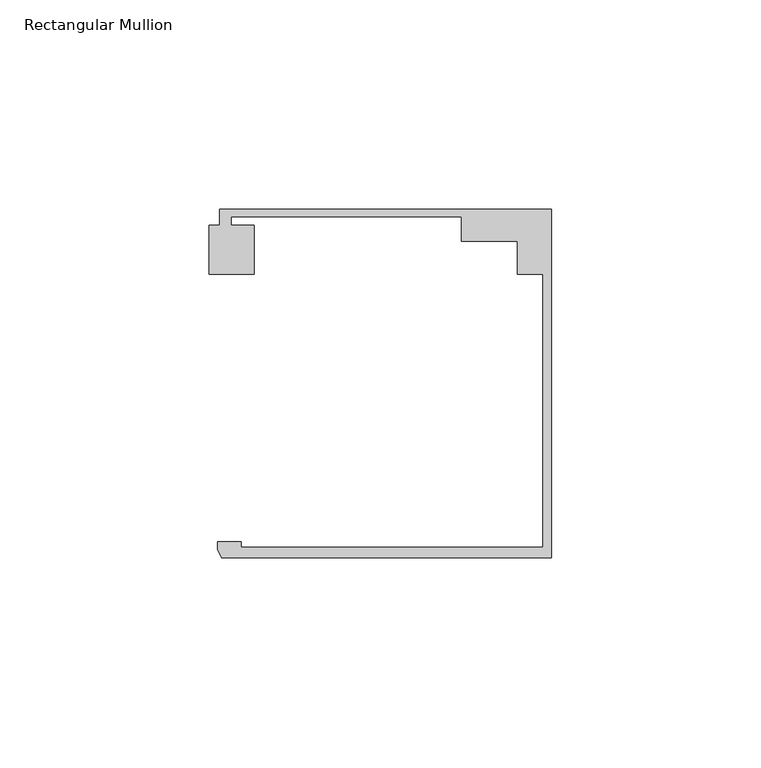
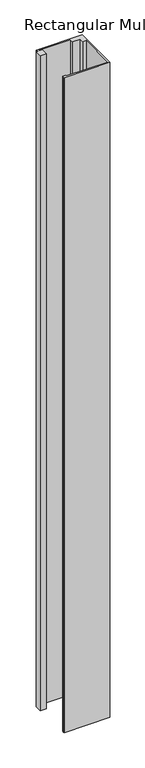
"""IFC4 building model written with IfcOpenShell, lengths in millimetres: member geometry, Rectangular Mullion : Danpal_Airpt_End-Mullion_B2."""

from ifc_helpers import new_model, si_unit, frame, origin, place, context, project, spatial, polyline, outline, extrude, source, transform, mapped, element, save


def rectangular_mullion_bd61cf46(model_context):
    return source(origin(), model_context, "Body", "SweptSolid", [
        extrude(outline(polyline([(-2.0000001, -74.9940824), (-2.0000001, -9.7188964), (-8.1, -9.7188964), (-8.1, -1.8818054), (-21.5478166, -1.8818054), (-21.5478166, 4.0051512), (-76.6478166, 4.0051512), (-76.6478166, 2.0051513), (-71.1433532, 2.0051513), (-71.1433532, -9.6875514), (-81.8592324, -9.6875514), (-81.8592324, 2.0051513), (-79.3474874, 2.0051513), (-79.3474874, 5.8051514), (0.0, 5.8051514), (0.0, -77.4940825), (-78.8515009, -77.4940825), (-79.7784606, -75.5472671), (-79.7784606, -73.6940824), (-74.2474668, -73.6940824), (-74.2474668, -74.9940824), (-2.0000001, -74.9940824)])), frame((0.0, 0.0, -1200.0), z_axis=(0.0, 0.0, 1.0), x_axis=(1.0, 0.0, 0.0)), (0.0, 0.0, 1.0), 1200.0),
    ])


if __name__ == "__main__":
    model = new_model("IFC4")
    model_context = context("Model", 3, world=origin())
    ifc_project = project(units=[si_unit("LENGTHUNIT", "METRE", prefix="MILLI")], contexts=[model_context])
    site = spatial("IfcSite", under=ifc_project)
    building = spatial("IfcBuilding", under=site)
    placement = place(None, origin())
    rectangular_mullion_shape = rectangular_mullion_bd61cf46(model_context)
    element("IfcMember", 1, ObjectType="Rectangular Mullion : Danpal_Airpt_End-Mullion_B2", at=placement, inside=building, context=model_context, shape_type="MappedRepresentation", body=[
        mapped(rectangular_mullion_shape, transform((0.0, 0.0, 0.0), x_axis=(1.0, 0.0, 0.0), y_axis=(0.0, 1.0, 0.0), z_axis=(0.0, 0.0, 1.0))),
    ])
    save(model, "model.ifc")
